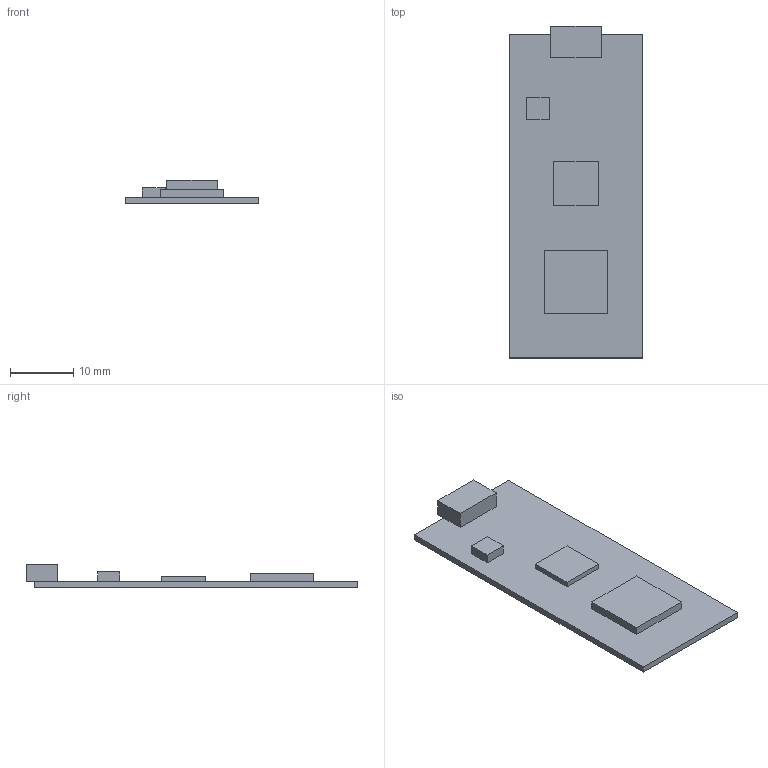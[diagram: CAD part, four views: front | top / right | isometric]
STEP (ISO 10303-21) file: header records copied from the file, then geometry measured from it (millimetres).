
FILE_DESCRIPTION(('tredder 3D model'),'2;1');
FILE_NAME('pico2w_sim.step','2026-01-01T00:00:00',(''),(''),'tredder step_writer','tredder','');
FILE_SCHEMA(('AUTOMOTIVE_DESIGN { 1 0 10303 214 1 1 1 1 }'));
Length unit declared in the file: millimetre
Products named in the file (1): pico2w_sim
Bounding box: 21 x 52.3 x 3.7 mm (x, y, z)
Volume: 1369.6 mm3; surface area: 2856.5 mm2
Topology: 5 solids, 5 shells, 30 faces, 60 edges, 40 vertices
Faces by surface type: plane 30
Entity records: 806 total; most frequent: CARTESIAN_POINT 131, DIRECTION 122, ORIENTED_EDGE 120, VECTOR 60, LINE 60, EDGE_CURVE 60, VERTEX_POINT 40, AXIS2_PLACEMENT_3D 31
